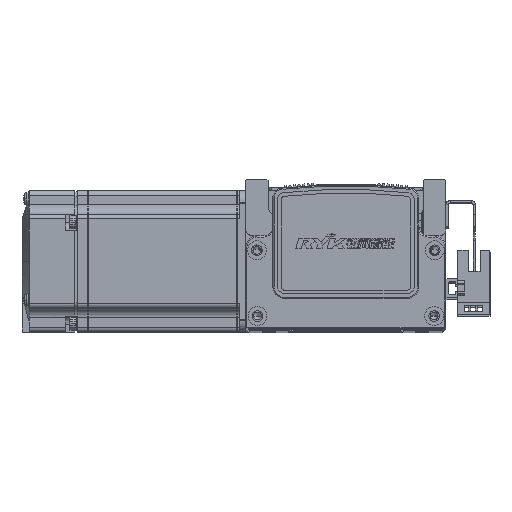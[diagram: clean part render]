
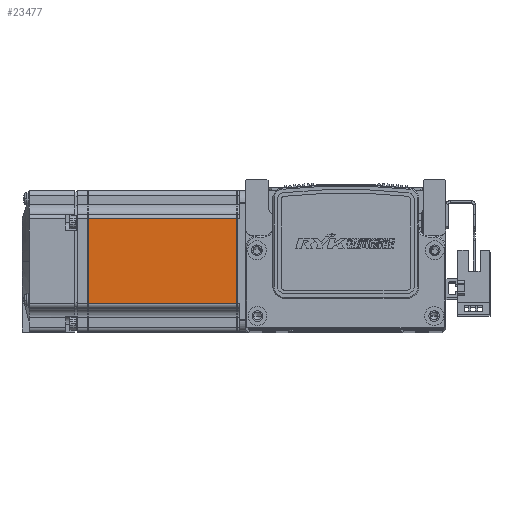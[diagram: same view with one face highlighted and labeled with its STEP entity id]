
A CAD part, top view. The second image highlights one B-rep face of the part: STEP entity #23477.
In plain terms, the highlighted planar face has unit normal (0, 0, 1) as drawn and (0, 0, -1) by its records, which use the part's own axes.
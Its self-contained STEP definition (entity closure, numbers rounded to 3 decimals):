
#1086 = EDGE_CURVE ( 'NONE', #17696, #17620, #68242, .T. ) ;
#1968 = DIRECTION ( 'NONE',  ( 1., 0., 0. ) ) ;
#1983 = CARTESIAN_POINT ( 'NONE',  ( -6.5, 18., -30. ) ) ;
#12813 = AXIS2_PLACEMENT_3D ( 'NONE', #36540, #36545, #36526 ) ;
#17620 = VERTEX_POINT ( 'NONE', #42969 ) ;
#17694 = VERTEX_POINT ( 'NONE', #42971 ) ;
#17696 = VERTEX_POINT ( 'NONE', #42972 ) ;
#17703 = VERTEX_POINT ( 'NONE', #43068 ) ;
#23477 = ADVANCED_FACE ( 'NONE', ( #40844 ), #36524, .T. ) ;
#36524 = PLANE ( 'NONE',  #12813 ) ;
#36526 = DIRECTION ( 'NONE',  ( -1., 0., 0. ) ) ;
#36540 = CARTESIAN_POINT ( 'NONE',  ( -6.5, 25., -30. ) ) ;
#36545 = DIRECTION ( 'NONE',  ( 0., 0., -1. ) ) ;
#38432 = ORIENTED_EDGE ( 'NONE', *, *, #63215, .T. ) ;
#38457 = ORIENTED_EDGE ( 'NONE', *, *, #1086, .T. ) ;
#38487 = ORIENTED_EDGE ( 'NONE', *, *, #63232, .T. ) ;
#38489 = ORIENTED_EDGE ( 'NONE', *, *, #63227, .T. ) ;
#40844 = FACE_OUTER_BOUND ( 'NONE', #73630, .T. ) ;
#42969 = CARTESIAN_POINT ( 'NONE',  ( -7.75, 18., -30. ) ) ;
#42971 = CARTESIAN_POINT ( 'NONE',  ( -70.95, -18., -30. ) ) ;
#42972 = CARTESIAN_POINT ( 'NONE',  ( -70.95, 18., -30. ) ) ;
#43068 = CARTESIAN_POINT ( 'NONE',  ( -7.75, -18., -30. ) ) ;
#46906 = CARTESIAN_POINT ( 'NONE',  ( -70.95, 25., -30. ) ) ;
#46930 = DIRECTION ( 'NONE',  ( 0., 1., 0. ) ) ;
#46936 = CARTESIAN_POINT ( 'NONE',  ( -6.5, -18., -30. ) ) ;
#46952 = CARTESIAN_POINT ( 'NONE',  ( -7.75, 25., -30. ) ) ;
#46971 = DIRECTION ( 'NONE',  ( 0., -1., 0. ) ) ;
#46974 = DIRECTION ( 'NONE',  ( -1., 0., 0. ) ) ;
#63215 = EDGE_CURVE ( 'NONE', #17694, #17696, #70978, .T. ) ;
#63227 = EDGE_CURVE ( 'NONE', #17620, #17703, #71105, .T. ) ;
#63232 = EDGE_CURVE ( 'NONE', #17703, #17694, #71082, .T. ) ;
#68242 = LINE ( 'NONE', #1983, #68250 ) ;
#68250 = VECTOR ( 'NONE', #1968, 1000. ) ;
#70978 = LINE ( 'NONE', #46906, #70986 ) ;
#70986 = VECTOR ( 'NONE', #46930, 1000. ) ;
#71054 = VECTOR ( 'NONE', #46974, 1000. ) ;
#71082 = LINE ( 'NONE', #46936, #71054 ) ;
#71091 = VECTOR ( 'NONE', #46971, 1000. ) ;
#71105 = LINE ( 'NONE', #46952, #71091 ) ;
#73630 = EDGE_LOOP ( 'NONE', ( #38489, #38487, #38432, #38457 ) ) ;
